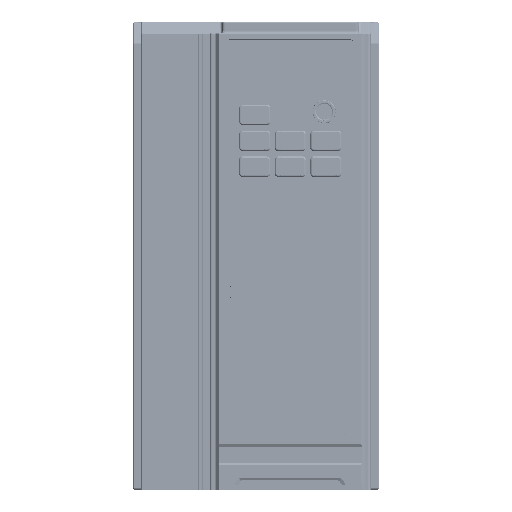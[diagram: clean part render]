
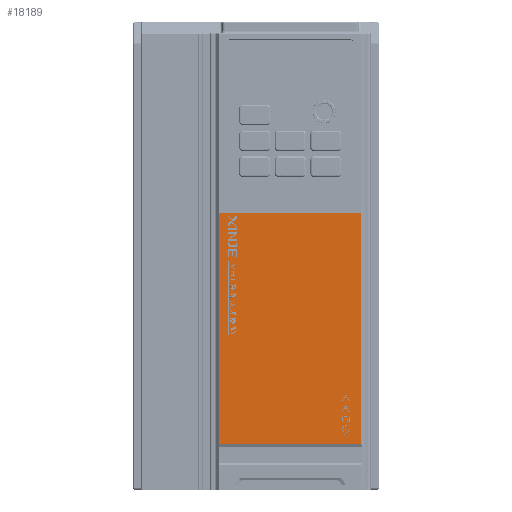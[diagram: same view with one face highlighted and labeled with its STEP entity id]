
A CAD part, front view. The second image highlights one B-rep face of the part: STEP entity #18189.
In plain terms, the highlighted planar face has unit normal (0, -1, 0) as drawn and (0, 0, 1) by its records, which use the part's own axes.
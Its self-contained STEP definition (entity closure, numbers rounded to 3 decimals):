
#18189=ADVANCED_FACE('',(#34492),#275711,.T.);
#34492=FACE_OUTER_BOUND('',#51565,.T.);
#51565=EDGE_LOOP('',(#126639,#126640,#126641,#126642));
#126639=ORIENTED_EDGE('',*,*,#177802,.F.);
#126640=ORIENTED_EDGE('',*,*,#177625,.F.);
#126641=ORIENTED_EDGE('',*,*,#177815,.F.);
#126642=ORIENTED_EDGE('',*,*,#177809,.F.);
#177625=EDGE_CURVE('',#257811,#257810,#228946,.T.);
#177802=EDGE_CURVE('',#257810,#257913,#229066,.T.);
#177809=EDGE_CURVE('',#257913,#257916,#229072,.T.);
#177815=EDGE_CURVE('',#257916,#257811,#229077,.T.);
#228946=B_SPLINE_CURVE_WITH_KNOTS('',1,(#499426,#499427),.UNSPECIFIED.,
 .F.,.F.,(2,2),(-62.4,0.),.UNSPECIFIED.);
#229066=B_SPLINE_CURVE_WITH_KNOTS('',1,(#499890,#499891),.UNSPECIFIED.,
 .F.,.F.,(2,2),(-101.852,0.),.UNSPECIFIED.);
#229072=B_SPLINE_CURVE_WITH_KNOTS('',1,(#499913,#499914),.UNSPECIFIED.,
 .F.,.F.,(2,2),(-62.4,0.),.UNSPECIFIED.);
#229077=B_SPLINE_CURVE_WITH_KNOTS('',1,(#499930,#499931),.UNSPECIFIED.,
 .F.,.F.,(2,2),(-101.852,0.),.UNSPECIFIED.);
#257810=VERTEX_POINT('',#498480);
#257811=VERTEX_POINT('',#498481);
#257913=VERTEX_POINT('',#498583);
#257916=VERTEX_POINT('',#498586);
#275711=PLANE('',#296285);
#296285=AXIS2_PLACEMENT_3D('',#497043,#321721,$);
#321721=DIRECTION('',(0.,0.,1.));
#497043=CARTESIAN_POINT('',(-22.686,38.549,172.698));
#498480=CARTESIAN_POINT('',(46.156,28.161,172.698));
#498481=CARTESIAN_POINT('',(-16.244,28.161,172.698));
#498583=CARTESIAN_POINT('',(46.156,-73.691,172.698));
#498586=CARTESIAN_POINT('',(-16.244,-73.691,172.698));
#499426=CARTESIAN_POINT('',(-16.244,28.161,172.698));
#499427=CARTESIAN_POINT('',(46.156,28.161,172.698));
#499890=CARTESIAN_POINT('',(46.156,28.161,172.698));
#499891=CARTESIAN_POINT('',(46.156,-73.691,172.698));
#499913=CARTESIAN_POINT('',(46.156,-73.691,172.698));
#499914=CARTESIAN_POINT('',(-16.244,-73.691,172.698));
#499930=CARTESIAN_POINT('',(-16.244,-73.691,172.698));
#499931=CARTESIAN_POINT('',(-16.244,28.161,172.698));
